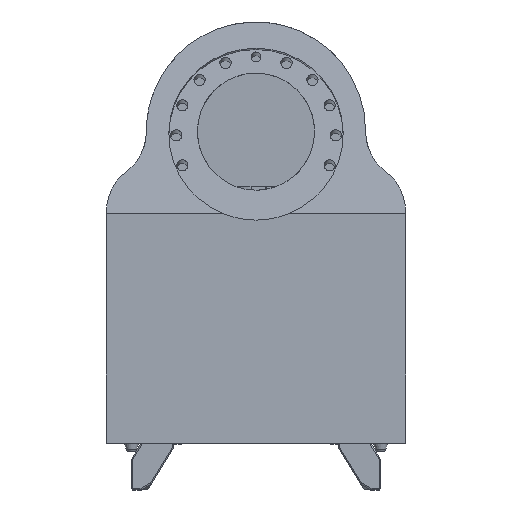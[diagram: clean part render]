
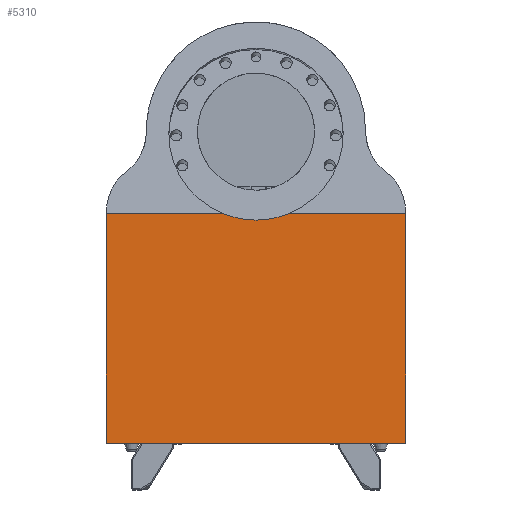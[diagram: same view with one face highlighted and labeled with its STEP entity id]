
A CAD part, top view. The second image highlights one B-rep face of the part: STEP entity #5310.
In plain terms, the highlighted planar face has unit normal (0, 0, 1).
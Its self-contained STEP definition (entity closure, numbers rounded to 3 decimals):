
#375 = CARTESIAN_POINT ( 'NONE',  ( -12.994, -33., 0. ) ) ;
#607 = DIRECTION ( 'NONE',  ( 1., 0., 0. ) ) ;
#1163 = DIRECTION ( 'NONE',  ( 1., 0., 0. ) ) ;
#1239 = PLANE ( 'NONE',  #15513 ) ;
#1425 = CARTESIAN_POINT ( 'NONE',  ( 60., -125., 0. ) ) ;
#3097 = VERTEX_POINT ( 'NONE', #1425 ) ;
#3530 = LINE ( 'NONE', #6251, #14077 ) ;
#3766 = FACE_OUTER_BOUND ( 'NONE', #26002, .T. ) ;
#4032 = VECTOR ( 'NONE', #14446, 1000. ) ;
#4089 = ORIENTED_EDGE ( 'NONE', *, *, #5535, .F. ) ;
#4227 = DIRECTION ( 'NONE',  ( 0., -1., 0. ) ) ;
#4803 = ORIENTED_EDGE ( 'NONE', *, *, #16525, .T. ) ;
#4863 = CARTESIAN_POINT ( 'NONE',  ( 4.548, -36.429, 0. ) ) ;
#4961 = ORIENTED_EDGE ( 'NONE', *, *, #28485, .F. ) ;
#5310 = ADVANCED_FACE ( 'NONE', ( #3766 ), #1239, .T. ) ;
#5365 = ORIENTED_EDGE ( 'NONE', *, *, #30288, .T. ) ;
#5535 = EDGE_CURVE ( 'NONE', #20747, #27400, #16221, .T. ) ;
#6150 = LINE ( 'NONE', #9170, #25678 ) ;
#6251 = CARTESIAN_POINT ( 'NONE',  ( -60., -125., 0. ) ) ;
#7097 = VECTOR ( 'NONE', #7768, 1000. ) ;
#7768 = DIRECTION ( 'NONE',  ( 1., 0., 0. ) ) ;
#7908 = ORIENTED_EDGE ( 'NONE', *, *, #16571, .F. ) ;
#9170 = CARTESIAN_POINT ( 'NONE',  ( -60., -32., 0. ) ) ;
#9183 = DIRECTION ( 'NONE',  ( 1., 0., 0. ) ) ;
#12650 = CARTESIAN_POINT ( 'NONE',  ( -4.548, -36.429, 0. ) ) ;
#12674 = CARTESIAN_POINT ( 'NONE',  ( -60., -33., 0. ) ) ;
#12700 = LINE ( 'NONE', #27092, #7097 ) ;
#14077 = VECTOR ( 'NONE', #1163, 1000. ) ;
#14446 = DIRECTION ( 'NONE',  ( 0., 1., 0. ) ) ;
#14585 = CARTESIAN_POINT ( 'NONE',  ( -12.994, -33., 0. ) ) ;
#15131 = EDGE_CURVE ( 'NONE', #23876, #3097, #3530, .T. ) ;
#15513 = AXIS2_PLACEMENT_3D ( 'NONE', #18729, #28521, #9183 ) ;
#16221 =( BOUNDED_CURVE ( )  B_SPLINE_CURVE ( 3, ( #375, #12650, #4863, #24786 ),
 .UNSPECIFIED., .F., .T. ) 
 B_SPLINE_CURVE_WITH_KNOTS ( ( 4, 4 ),
 ( 2.761, 3.522 ),
 .UNSPECIFIED. ) 
 CURVE ( )  GEOMETRIC_REPRESENTATION_ITEM ( )  RATIONAL_B_SPLINE_CURVE ( ( 1., 0.952, 0.952, 1. ) ) 
 REPRESENTATION_ITEM ( '' )  );
#16274 = VECTOR ( 'NONE', #607, 1000. ) ;
#16525 = EDGE_CURVE ( 'NONE', #3097, #16814, #21584, .T. ) ;
#16571 = EDGE_CURVE ( 'NONE', #29711, #20747, #12700, .T. ) ;
#16814 = VERTEX_POINT ( 'NONE', #31472 ) ;
#18729 = CARTESIAN_POINT ( 'NONE',  ( 64., 0., 0. ) ) ;
#18799 = CARTESIAN_POINT ( 'NONE',  ( 12.994, -33., 0. ) ) ;
#20747 = VERTEX_POINT ( 'NONE', #14585 ) ;
#21584 = LINE ( 'NONE', #21902, #4032 ) ;
#21902 = CARTESIAN_POINT ( 'NONE',  ( 60., -32., 0. ) ) ;
#22092 = CARTESIAN_POINT ( 'NONE',  ( -60., -33., 0. ) ) ;
#23876 = VERTEX_POINT ( 'NONE', #24764 ) ;
#24764 = CARTESIAN_POINT ( 'NONE',  ( -60., -125., 0. ) ) ;
#24786 = CARTESIAN_POINT ( 'NONE',  ( 12.994, -33., 0. ) ) ;
#25678 = VECTOR ( 'NONE', #4227, 1000. ) ;
#26002 = EDGE_LOOP ( 'NONE', ( #4089, #7908, #5365, #26298, #4803, #4961 ) ) ;
#26298 = ORIENTED_EDGE ( 'NONE', *, *, #15131, .T. ) ;
#27092 = CARTESIAN_POINT ( 'NONE',  ( -60., -33., 0. ) ) ;
#27400 = VERTEX_POINT ( 'NONE', #18799 ) ;
#28485 = EDGE_CURVE ( 'NONE', #27400, #16814, #29345, .T. ) ;
#28521 = DIRECTION ( 'NONE',  ( 0., 0., 1. ) ) ;
#29345 = LINE ( 'NONE', #22092, #16274 ) ;
#29711 = VERTEX_POINT ( 'NONE', #12674 ) ;
#30288 = EDGE_CURVE ( 'NONE', #29711, #23876, #6150, .T. ) ;
#31472 = CARTESIAN_POINT ( 'NONE',  ( 60., -33., 0. ) ) ;
